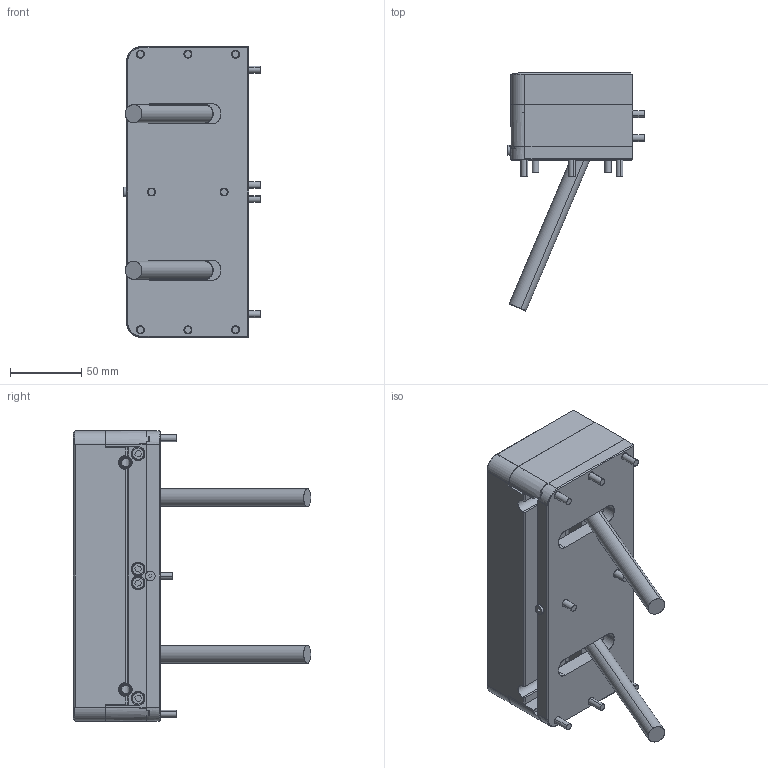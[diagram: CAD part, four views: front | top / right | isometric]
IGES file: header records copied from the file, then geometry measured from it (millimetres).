
Start section: SolidWorks IGES file using analytic representation for surfaces
Global section: file name: C:\temp\GO\Files\SL-55-60-HT.igs; native system: SolidWorks 2023; preprocessor: SolidWorks 2023; author: andrew.sweeney; date: 250805.205241; units: inch
Bounding box: 95.2 x 166.22 x 203.2 mm (x, y, z)
Surface area: 191576.5 mm2 (no closed solid volume)
Topology: 0 solids, 0 shells, 911 faces, 13723 edges, 13688 vertices
Faces by surface type: bspline 498, revolution 413
